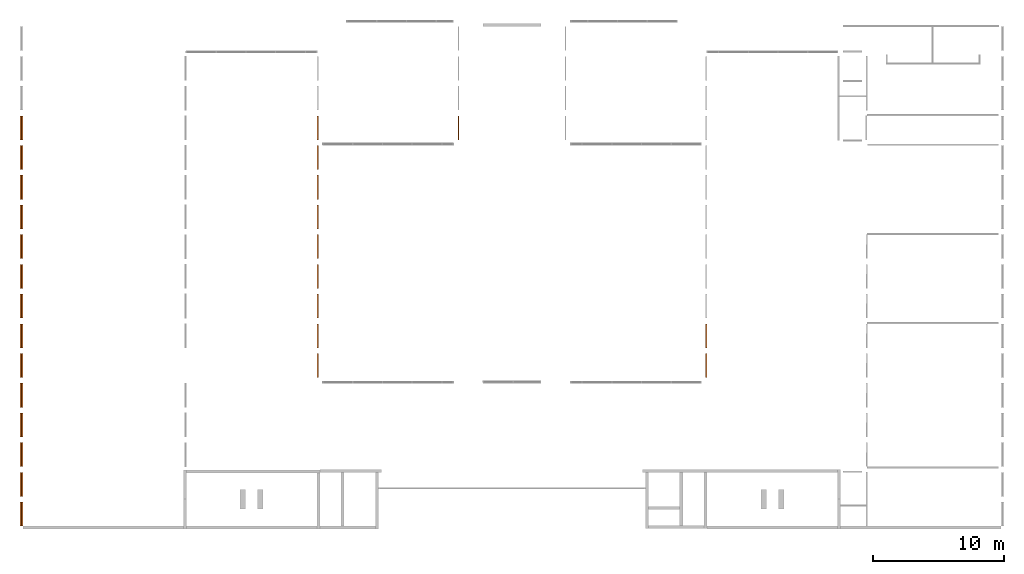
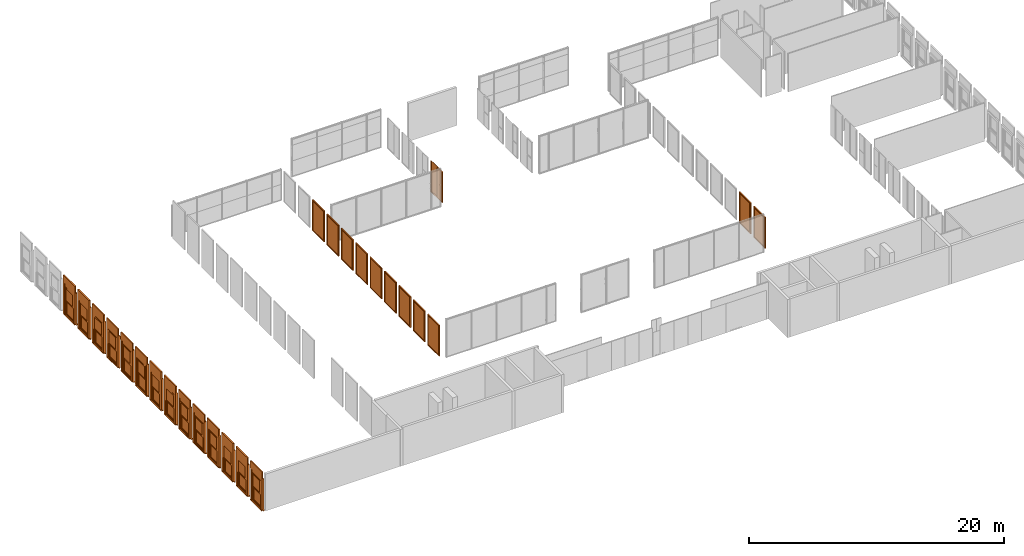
# One storey, part 13 of 15: 26 proxies.
"""IFC2X3 building model written with IfcOpenShell, lengths in millimetres."""

from ifc_helpers import new_model, entity, si_unit, converted_unit, derived_unit, direction, frame, frame_2d, origin, origin_2d_with_axis, place, context, subcontext, project, spatial, polyline, rectangle, outline, extrude, source, transform, mapped, material, material_list, type_object, type_shapes, element, save


model = new_model("IFC2X3")

# Units and contexts
model_context = context("Model", 3, precision=0.01, world=origin(), true_north=direction((6.12303176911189e-17, 1.0)))
body_context = subcontext(model_context, "Body", "Model", "MODEL_VIEW")
ifc_project = project(units=[si_unit("LENGTHUNIT", "METRE", prefix="MILLI"), si_unit("AREAUNIT", "SQUARE_METRE"), si_unit("VOLUMEUNIT", "CUBIC_METRE"), converted_unit("PLANEANGLEUNIT", "DEGREE", entity("IfcRatioMeasure", 0.0174532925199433), si_unit("PLANEANGLEUNIT", "RADIAN"), dimensions=[0, 0, 0, 0, 0, 0, 0]), si_unit("MASSUNIT", "GRAM", prefix="KILO"), derived_unit("MASSDENSITYUNIT", [(si_unit("MASSUNIT", "GRAM", prefix="KILO"), 1), (si_unit("LENGTHUNIT", "METRE"), -3)]), derived_unit("MOMENTOFINERTIAUNIT", [(si_unit("LENGTHUNIT", "METRE"), 4)]), si_unit("TIMEUNIT", "SECOND"), si_unit("FREQUENCYUNIT", "HERTZ"), si_unit("THERMODYNAMICTEMPERATUREUNIT", "DEGREE_CELSIUS"), derived_unit("THERMALTRANSMITTANCEUNIT", [(si_unit("MASSUNIT", "GRAM", prefix="KILO"), 1), (si_unit("THERMODYNAMICTEMPERATUREUNIT", "KELVIN"), -1), (si_unit("TIMEUNIT", "SECOND"), -3)]), derived_unit("VOLUMETRICFLOWRATEUNIT", [(si_unit("LENGTHUNIT", "METRE"), 3), (si_unit("TIMEUNIT", "SECOND"), -1)]), si_unit("ELECTRICCURRENTUNIT", "AMPERE"), si_unit("ELECTRICVOLTAGEUNIT", "VOLT"), si_unit("POWERUNIT", "WATT"), si_unit("FORCEUNIT", "NEWTON", prefix="KILO"), si_unit("ILLUMINANCEUNIT", "LUX"), si_unit("LUMINOUSFLUXUNIT", "LUMEN"), si_unit("LUMINOUSINTENSITYUNIT", "CANDELA"), derived_unit("USERDEFINED", [(si_unit("MASSUNIT", "GRAM", prefix="KILO"), -1), (si_unit("LENGTHUNIT", "METRE"), -2), (si_unit("TIMEUNIT", "SECOND"), 3), (si_unit("LUMINOUSFLUXUNIT", "LUMEN"), 1)]), derived_unit("LINEARVELOCITYUNIT", [(si_unit("LENGTHUNIT", "METRE"), 1), (si_unit("TIMEUNIT", "SECOND"), -1)]), si_unit("PRESSUREUNIT", "PASCAL"), derived_unit("USERDEFINED", [(si_unit("LENGTHUNIT", "METRE"), -2), (si_unit("MASSUNIT", "GRAM", prefix="KILO"), 1), (si_unit("TIMEUNIT", "SECOND"), -2)]), derived_unit("LINEARFORCEUNIT", [(si_unit("MASSUNIT", "GRAM", prefix="KILO"), 1), (si_unit("LENGTHUNIT", "METRE"), 1), (si_unit("TIMEUNIT", "SECOND"), -2), (si_unit("LENGTHUNIT", "METRE"), -1)]), derived_unit("PLANARFORCEUNIT", [(si_unit("MASSUNIT", "GRAM", prefix="KILO"), 1), (si_unit("LENGTHUNIT", "METRE"), 1), (si_unit("TIMEUNIT", "SECOND"), -2), (si_unit("LENGTHUNIT", "METRE"), -2)])], contexts=[model_context])

# Site, building, storey
site_placement = place(None, frame((10627.5135316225, 21939.0796949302, 0.0)))
site = spatial("IfcSite", under=ifc_project, at=site_placement, Name="Default", CompositionType="ELEMENT")
building_placement = place(site_placement, origin())
building = spatial("IfcBuilding", under=site, at=building_placement, CompositionType="ELEMENT")
storey_placement = place(building_placement, origin())
storey = spatial("IfcBuildingStorey", under=building, at=storey_placement, Name="RDC", CompositionType="ELEMENT", Elevation=0.0)

# Proxies
ifc_material_1 = material(Name="PVC, Flexible")
ifc_material_2 = material(Name="Glass")
ifc_material_list_1 = material_list([ifc_material_1, ifc_material_2])
building_element_proxy_type_1 = type_object("IfcBuildingElementProxyType", Name="FENETRE.dwg:Fenetre ext 296+70", PredefinedType="NOTDEFINED", material=ifc_material_1)
shared_shape_1 = source(origin(), body_context, "Body", "SweptSolid", [
    extrude(rectangle(XDim=1829.99999999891, YDim=112.500043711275, at=origin_2d_with_axis()), frame((-10.4189092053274, 56.2500218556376, 2960.0), z_axis=(0.0, 0.0, 1.0), x_axis=(-1.0, 0.0, 0.0)), (0.0, 0.0, 1.0), 700.0),
    extrude(outline(polyline([(-68.5678005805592, -14.3879872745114), (-72.4883397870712, -33.9999574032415), (-67.5853472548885, -34.9800922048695), (-63.9024543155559, -16.5569155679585), (44.3087537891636, -16.5569155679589), (54.1101018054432, 32.4730097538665), (40.6268723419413, 35.1683804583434), (40.1368049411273, 32.7168841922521), (51.168538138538, 30.5115808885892), (42.1928709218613, -14.3879872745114), (-68.5678005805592, -14.3879872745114)])), frame((-925.418909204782, 66.917049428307, -47.5499763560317), z_axis=(-1.0, 0.0, 0.0), x_axis=(0.0, 0.980598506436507, -0.196026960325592)), (0.0, 0.0, -1.0), 1829.99999999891),
    extrude(outline(polyline([(-64.667066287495, -56.2500218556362), (66.1666874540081, -56.2500218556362), (66.1666874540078, 56.2500218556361), (-67.6663086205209, 56.2500218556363), (-64.667066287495, -56.2500218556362)])), frame((-925.418909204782, -56.2500218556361, -63.833312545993), z_axis=(1.0, 0.0, 0.0), x_axis=(0.0, 0.0, -1.0)), (0.0, 0.0, 1.0), 1829.99999999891),
    extrude(outline(polyline([(-55.5555555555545, 97.0007159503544), (-55.5555555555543, -5.85738417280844), (-55.5555555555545, -95.357341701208), (-45.5555555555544, -95.3573417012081), (-45.5555555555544, -105.357341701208), (174.444444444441, -105.357341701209), (174.444444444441, 106.642659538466), (-45.5555555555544, 106.642659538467), (-45.5555555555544, 97.0007159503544), (-55.5555555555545, 97.0007159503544)])), frame((849.025535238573, 5.85738417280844, 0.0), z_axis=(0.0, 0.0, -1.0), x_axis=(-1.0, 0.0, 0.0)), (0.0, 0.0, -1.0), 2960.0),
    extrude(rectangle(XDim=199.499957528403, YDim=1369.99999999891, at=origin_2d_with_axis()), frame((-10.4189092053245, 0.250021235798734, 2730.0), z_axis=(0.0, 0.0, 1.0), x_axis=(0.0, 1.0, 0.0)), (0.0, 0.0, 1.0), 230.000000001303),
    extrude(outline(polyline([(-97.0007159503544, -55.5555555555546), (5.85738417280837, -55.5555555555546), (95.357341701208, -55.5555555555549), (95.357341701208, -45.5555555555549), (105.357341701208, -45.5555555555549), (105.357341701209, 174.44444444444), (-106.642659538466, 174.444444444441), (-106.642659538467, -45.5555555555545), (-97.0007159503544, -45.5555555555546), (-97.0007159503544, -55.5555555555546)])), frame((-869.863353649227, 5.85738417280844, 0.0), z_axis=(0.0, 0.0, 1.0), x_axis=(0.0, -1.0, 0.0)), (0.0, 0.0, 1.0), 2960.0),
    extrude(rectangle(XDim=1.0, YDim=1079.99999999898, at=origin_2d_with_axis()), frame((-10.4189092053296, -19.5, 130.0), z_axis=(0.0, 0.0, 1.0), x_axis=(0.0, 1.0, 0.0)), (0.0, 0.0, 1.0), 1120.00000000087),
    extrude(rectangle(XDim=1.0, YDim=1079.99999999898, at=frame_2d((-4.21884749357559e-15, 0.0), x_axis=(1.0, 0.0))), frame((-10.4189092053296, -30.5, 130.0), z_axis=(0.0, 0.0, 1.0), x_axis=(0.0, 1.0, 0.0)), (0.0, 0.0, 1.0), 1120.00000000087),
    extrude(rectangle(XDim=1.0, YDim=1079.99999999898, at=frame_2d((-4.21884749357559e-15, 0.0), x_axis=(1.0, 0.0))), frame((-10.4189092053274, 69.5, 1465.0), z_axis=(0.0, 0.0, 1.0), x_axis=(0.0, 1.0, 0.0)), (0.0, 0.0, 1.0), 1120.0),
    extrude(rectangle(XDim=0.999999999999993, YDim=1079.99999999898, at=frame_2d((-8.46545056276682e-15, 0.0), x_axis=(1.0, 0.0))), frame((-10.4189092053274, 80.5, 1465.0), z_axis=(0.0, 0.0, 1.0), x_axis=(0.0, 1.0, 0.0)), (0.0, 0.0, 1.0), 1120.00000000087),
    extrude(outline(polyline([(-685.0, -1365.0), (0.0, -1365.0), (685.0, -1365.0), (685.0, 1365.0), (0.0, 1365.0), (-685.0, 1365.0), (-685.0, -1365.0)]), holes=[polyline([(-640.0, -1320.0), (-640.0, -45.0), (0.0, -45.0), (640.0, -45.0), (640.0, -1320.0), (0.0, -1320.0), (-640.0, -1320.0)]), polyline([(-640.0, 40.0), (-640.0, 1315.0), (0.0, 1315.0), (640.0, 1315.0), (640.0, 40.0), (0.0, 40.0), (-640.0, 40.0)])]), frame((-10.4189092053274, 0.0, 1365.0), z_axis=(0.0, 1.0, 0.0), x_axis=(1.0, 0.0, 0.0)), (0.0, 0.0, 1.0), 50.0),
    extrude(outline(polyline([(-655.0, -667.500000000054), (655.0, -667.500000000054), (655.0, 667.500000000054), (-655.0, 667.500000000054), (-655.0, -667.500000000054)]), holes=[polyline([(-540.0, 552.500000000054), (540.0, 552.500000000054), (540.0, -567.500000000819), (-540.0, -567.500000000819), (-540.0, 552.500000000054)])]), frame((-10.4189092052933, -50.0, 697.500000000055), z_axis=(0.0, 1.0, 0.0), x_axis=(-1.0, 0.0, 0.0)), (0.0, 0.0, 1.0), 50.0),
    extrude(outline(polyline([(-655.0, -667.500000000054), (655.0, -667.500000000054), (655.0, 667.500000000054), (-655.0, 667.500000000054), (-655.0, -667.500000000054)]), holes=[polyline([(-540.0, 552.500000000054), (540.0, 552.500000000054), (540.0, -567.500000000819), (-540.0, -567.500000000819), (-540.0, 552.500000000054)])]), frame((-10.4189092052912, 50.0, 2032.50000000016), z_axis=(0.0, 1.0, 0.0), x_axis=(-1.0, 0.0, 0.0)), (0.0, 0.0, 1.0), 50.0),
])
type_shapes(building_element_proxy_type_1, [shared_shape_1])
proxy_1_placement = place(storey_placement, frame((-10728.9017825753, 8581.33921427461, 0.0), z_axis=(0.0, 0.0, 1.0), x_axis=(0.0, 1.0, 0.0)))
element("IfcBuildingElementProxy", 1, at=proxy_1_placement, inside=storey, type_object=building_element_proxy_type_1, material=ifc_material_list_1, Name="FENETRE.dwg:Fenetre ext 296+70", ObjectType="FENETRE.dwg:Fenetre ext 296+70", context=body_context, shape_type="MappedRepresentation", body=[
    mapped(shared_shape_1, transform((0.0, 0.0, 0.0), scale=1.0)),
])
ifc_material_list_2 = material_list([ifc_material_1, ifc_material_2])
proxy_2_placement = place(storey_placement, frame((-10728.9017825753, 6321.33921427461, 0.0), z_axis=(0.0, 0.0, 1.0), x_axis=(0.0, 1.0, 0.0)))
element("IfcBuildingElementProxy", 2, at=proxy_2_placement, inside=storey, type_object=building_element_proxy_type_1, material=ifc_material_list_2, Name="FENETRE.dwg:Fenetre ext 296+70", ObjectType="FENETRE.dwg:Fenetre ext 296+70", context=body_context, shape_type="MappedRepresentation", body=[
    mapped(shared_shape_1, transform((0.0, 0.0, 0.0), scale=1.0)),
])
ifc_material_list_3 = material_list([ifc_material_1, ifc_material_2])
proxy_3_placement = place(storey_placement, frame((-10728.9017825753, 4061.33921427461, 0.0), z_axis=(0.0, 0.0, 1.0), x_axis=(0.0, 1.0, 0.0)))
element("IfcBuildingElementProxy", 3, at=proxy_3_placement, inside=storey, type_object=building_element_proxy_type_1, material=ifc_material_list_3, Name="FENETRE.dwg:Fenetre ext 296+70", ObjectType="FENETRE.dwg:Fenetre ext 296+70", context=body_context, shape_type="MappedRepresentation", body=[
    mapped(shared_shape_1, transform((0.0, 0.0, 0.0), scale=1.0)),
])
ifc_material_list_4 = material_list([ifc_material_1, ifc_material_2])
proxy_4_placement = place(storey_placement, frame((-10728.9017825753, 1801.33921427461, 0.0), z_axis=(0.0, 0.0, 1.0), x_axis=(0.0, 1.0, 0.0)))
element("IfcBuildingElementProxy", 4, at=proxy_4_placement, inside=storey, type_object=building_element_proxy_type_1, material=ifc_material_list_4, Name="FENETRE.dwg:Fenetre ext 296+70", ObjectType="FENETRE.dwg:Fenetre ext 296+70", context=body_context, shape_type="MappedRepresentation", body=[
    mapped(shared_shape_1, transform((0.0, 0.0, 0.0), scale=1.0)),
])
ifc_material_list_5 = material_list([ifc_material_1, ifc_material_2])
proxy_5_placement = place(storey_placement, frame((-10728.9017825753, -458.660785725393, 0.0), z_axis=(0.0, 0.0, 1.0), x_axis=(0.0, 1.0, 0.0)))
element("IfcBuildingElementProxy", 5, at=proxy_5_placement, inside=storey, type_object=building_element_proxy_type_1, material=ifc_material_list_5, Name="FENETRE.dwg:Fenetre ext 296+70", ObjectType="FENETRE.dwg:Fenetre ext 296+70", context=body_context, shape_type="MappedRepresentation", body=[
    mapped(shared_shape_1, transform((0.0, 0.0, 0.0), scale=1.0)),
])
ifc_material_list_6 = material_list([ifc_material_1, ifc_material_2])
proxy_6_placement = place(storey_placement, frame((-10728.9017825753, -2718.66078572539, 0.0), z_axis=(0.0, 0.0, 1.0), x_axis=(0.0, 1.0, 0.0)))
element("IfcBuildingElementProxy", 6, at=proxy_6_placement, inside=storey, type_object=building_element_proxy_type_1, material=ifc_material_list_6, Name="FENETRE.dwg:Fenetre ext 296+70", ObjectType="FENETRE.dwg:Fenetre ext 296+70", context=body_context, shape_type="MappedRepresentation", body=[
    mapped(shared_shape_1, transform((0.0, 0.0, 0.0), scale=1.0)),
])
ifc_material_list_7 = material_list([ifc_material_1, ifc_material_2])
proxy_7_placement = place(storey_placement, frame((-10728.9017825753, -4978.6607857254, 0.0), z_axis=(0.0, 0.0, 1.0), x_axis=(0.0, 1.0, 0.0)))
element("IfcBuildingElementProxy", 7, at=proxy_7_placement, inside=storey, type_object=building_element_proxy_type_1, material=ifc_material_list_7, Name="FENETRE.dwg:Fenetre ext 296+70", ObjectType="FENETRE.dwg:Fenetre ext 296+70", context=body_context, shape_type="MappedRepresentation", body=[
    mapped(shared_shape_1, transform((0.0, 0.0, 0.0), scale=1.0)),
])
ifc_material_list_8 = material_list([ifc_material_1, ifc_material_2])
proxy_8_placement = place(storey_placement, frame((-10728.9017825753, -7238.6607857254, 0.0), z_axis=(0.0, 0.0, 1.0), x_axis=(0.0, 1.0, 0.0)))
element("IfcBuildingElementProxy", 8, at=proxy_8_placement, inside=storey, type_object=building_element_proxy_type_1, material=ifc_material_list_8, Name="FENETRE.dwg:Fenetre ext 296+70", ObjectType="FENETRE.dwg:Fenetre ext 296+70", context=body_context, shape_type="MappedRepresentation", body=[
    mapped(shared_shape_1, transform((0.0, 0.0, 0.0), scale=1.0)),
])
ifc_material_list_9 = material_list([ifc_material_1, ifc_material_2])
proxy_9_placement = place(storey_placement, frame((-10728.9017825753, -9498.6607857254, 0.0), z_axis=(0.0, 0.0, 1.0), x_axis=(0.0, 1.0, 0.0)))
element("IfcBuildingElementProxy", 9, at=proxy_9_placement, inside=storey, type_object=building_element_proxy_type_1, material=ifc_material_list_9, Name="FENETRE.dwg:Fenetre ext 296+70", ObjectType="FENETRE.dwg:Fenetre ext 296+70", context=body_context, shape_type="MappedRepresentation", body=[
    mapped(shared_shape_1, transform((0.0, 0.0, 0.0), scale=1.0)),
])
ifc_material_list_10 = material_list([ifc_material_1, ifc_material_2])
proxy_10_placement = place(storey_placement, frame((-10728.9017825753, -11758.6607857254, 0.0), z_axis=(0.0, 0.0, 1.0), x_axis=(0.0, 1.0, 0.0)))
element("IfcBuildingElementProxy", 10, at=proxy_10_placement, inside=storey, type_object=building_element_proxy_type_1, material=ifc_material_list_10, Name="FENETRE.dwg:Fenetre ext 296+70", ObjectType="FENETRE.dwg:Fenetre ext 296+70", context=body_context, shape_type="MappedRepresentation", body=[
    mapped(shared_shape_1, transform((0.0, 0.0, 0.0), scale=1.0)),
])
ifc_material_list_11 = material_list([ifc_material_1, ifc_material_2])
proxy_11_placement = place(storey_placement, frame((-10728.9017825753, -14018.6607857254, 0.0), z_axis=(0.0, 0.0, 1.0), x_axis=(0.0, 1.0, 0.0)))
element("IfcBuildingElementProxy", 11, at=proxy_11_placement, inside=storey, type_object=building_element_proxy_type_1, material=ifc_material_list_11, Name="FENETRE.dwg:Fenetre ext 296+70", ObjectType="FENETRE.dwg:Fenetre ext 296+70", context=body_context, shape_type="MappedRepresentation", body=[
    mapped(shared_shape_1, transform((0.0, 0.0, 0.0), scale=1.0)),
])
ifc_material_list_12 = material_list([ifc_material_1, ifc_material_2])
proxy_12_placement = place(storey_placement, frame((-10728.9017825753, -16278.6607857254, 0.0), z_axis=(0.0, 0.0, 1.0), x_axis=(0.0, 1.0, 0.0)))
element("IfcBuildingElementProxy", 12, at=proxy_12_placement, inside=storey, type_object=building_element_proxy_type_1, material=ifc_material_list_12, Name="FENETRE.dwg:Fenetre ext 296+70", ObjectType="FENETRE.dwg:Fenetre ext 296+70", context=body_context, shape_type="MappedRepresentation", body=[
    mapped(shared_shape_1, transform((0.0, 0.0, 0.0), scale=1.0)),
])
ifc_material_list_13 = material_list([ifc_material_1, ifc_material_2])
proxy_13_placement = place(storey_placement, frame((-10728.9017825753, -18538.6607857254, 0.0), z_axis=(0.0, 0.0, 1.0), x_axis=(0.0, 1.0, 0.0)))
element("IfcBuildingElementProxy", 13, at=proxy_13_placement, inside=storey, type_object=building_element_proxy_type_1, material=ifc_material_list_13, Name="FENETRE.dwg:Fenetre ext 296+70", ObjectType="FENETRE.dwg:Fenetre ext 296+70", context=body_context, shape_type="MappedRepresentation", body=[
    mapped(shared_shape_1, transform((0.0, 0.0, 0.0), scale=1.0)),
])
ifc_material_list_14 = material_list([ifc_material_1, ifc_material_2])
proxy_14_placement = place(storey_placement, frame((-10728.9017825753, -20798.6607857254, 0.0), z_axis=(0.0, 0.0, 1.0), x_axis=(0.0, 1.0, 0.0)))
element("IfcBuildingElementProxy", 14, at=proxy_14_placement, inside=storey, type_object=building_element_proxy_type_1, material=ifc_material_list_14, Name="FENETRE.dwg:Fenetre ext 296+70", ObjectType="FENETRE.dwg:Fenetre ext 296+70", context=body_context, shape_type="MappedRepresentation", body=[
    mapped(shared_shape_1, transform((0.0, 0.0, 0.0), scale=1.0)),
])
ifc_material_3 = material(Name="Softwood, Finish Black")
ifc_material_list_15 = material_list([ifc_material_2, ifc_material_3])
building_element_proxy_type_2 = type_object("IfcBuildingElementProxyType", Name="Cloisin vitre bois vitrage P-F 3-4H 498x296:Cloisin vitre bois vitrage P-F 3-4H 498x296", PredefinedType="NOTDEFINED", material=ifc_material_2)
shared_shape_2 = source(origin(), body_context, "Body", "SweptSolid", [
    extrude(rectangle(XDim=4.96346169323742, YDim=1750.0, at=frame_2d((-4.21884749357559e-15, 1.13686837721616e-13), x_axis=(1.0, 0.0))), frame((0.0, -47.4817308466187, 40.0), z_axis=(0.0, 0.0, 1.0), x_axis=(0.0, 1.0, 0.0)), (0.0, 0.0, 1.0), 2880.0),
    extrude(rectangle(XDim=5.0, YDim=1750.0, at=frame_2d((-1.99840144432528e-15, 1.13686837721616e-13), x_axis=(1.0, 0.0))), frame((0.0, -32.5, 40.0), z_axis=(0.0, 0.0, 1.0), x_axis=(0.0, 1.0, 0.0)), (0.0, 0.0, 1.0), 2880.0),
    extrude(rectangle(XDim=5.0, YDim=1750.0, at=frame_2d((-1.99840144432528e-15, 1.13686837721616e-13), x_axis=(1.0, 0.0))), frame((0.0, -32.5, 40.0), z_axis=(0.0, 0.0, 1.0), x_axis=(0.0, 1.0, 0.0)), (0.0, 0.0, 1.0), 2880.0),
    extrude(outline(polyline([(-1440.0, -875.0), (1440.0, -875.0), (1440.0, 875.0), (-1440.0, 875.0), (-1440.0, -875.0)]), holes=[polyline([(1400.0, 835.0), (1400.0, -783.916998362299), (-1400.0, -783.916998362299), (-1400.0, 835.0), (1400.0, 835.0)])]), frame((0.0, -100.0, 1480.0), z_axis=(0.0, 1.0, 0.0), x_axis=(0.0, 0.0, -1.0)), (0.0, 0.0, 1.0), 50.0365383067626),
    extrude(outline(polyline([(-1480.0, -915.0), (1480.0, -915.0), (1480.0, 915.0), (-1480.0, 915.0), (-1480.0, -915.0)]), holes=[polyline([(-1440.0, -875.0), (-1440.0, 875.0), (1440.0, 875.0), (1440.0, -875.0), (-1440.0, -875.0)])]), frame((0.0, -100.0, 1480.0), z_axis=(0.0, 1.0, 0.0), x_axis=(0.0, 0.0, -1.0)), (0.0, 0.0, 1.0), 70.0),
    extrude(outline(polyline([(-1480.0, -915.0), (1480.0, -915.0), (1480.0, 0.0), (1480.0, 915.0), (-1480.0, 915.0), (-1480.0, 0.0), (-1480.0, -915.0)]), holes=[polyline([(1400.0, 0.0), (1400.0, -835.0), (-1400.0, -835.0), (-1400.0, 0.0), (-1400.0, 835.0), (1400.0, 835.0), (1400.0, 0.0)])]), frame((0.0, -30.0, 1480.0), z_axis=(0.0, 1.0, 0.0), x_axis=(0.0, 0.0, 1.0)), (0.0, 0.0, 1.0), 30.0),
])
type_shapes(building_element_proxy_type_2, [shared_shape_2])
proxy_15_placement = place(storey_placement, frame((41406.8614683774, -7249.07969493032, 0.0), z_axis=(0.0, 0.0, 1.0), x_axis=(0.0, -1.0, 0.0)))
element("IfcBuildingElementProxy", 15, at=proxy_15_placement, inside=storey, type_object=building_element_proxy_type_2, material=ifc_material_list_15, Name="Cloisin vitre bois vitrage P-F 3-4H 498x296:Cloisin vitre bois vitrage P-F 3-4H 498x296", ObjectType="Cloisin vitre bois vitrage P-F 3-4H 498x296:Cloisin vitre bois vitrage P-F 3-4H 498x296", context=body_context, shape_type="MappedRepresentation", body=[
    mapped(shared_shape_2, transform((0.0, 0.0, 0.0), scale=1.0)),
])
ifc_material_list_16 = material_list([ifc_material_2, ifc_material_3])
proxy_16_placement = place(storey_placement, frame((41406.8614683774, -9509.07969493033, 0.0), z_axis=(0.0, 0.0, 1.0), x_axis=(0.0, -1.0, 0.0)))
element("IfcBuildingElementProxy", 16, at=proxy_16_placement, inside=storey, type_object=building_element_proxy_type_2, material=ifc_material_list_16, Name="Cloisin vitre bois vitrage P-F 3-4H 498x296:Cloisin vitre bois vitrage P-F 3-4H 498x296", ObjectType="Cloisin vitre bois vitrage P-F 3-4H 498x296:Cloisin vitre bois vitrage P-F 3-4H 498x296", context=body_context, shape_type="MappedRepresentation", body=[
    mapped(shared_shape_2, transform((0.0, 0.0, 0.0), scale=1.0)),
])
ifc_material_list_17 = material_list([ifc_material_2, ifc_material_3])
building_element_proxy_type_3 = type_object("IfcBuildingElementProxyType", Name="Cloisin vitre bois vitrage P-F 3-4H 498x296:Cloisin vitre bois vitrage P-F 3-4H 498x296", PredefinedType="NOTDEFINED", material=ifc_material_2)
shared_shape_3 = source(origin(), body_context, "Body", "SweptSolid", [
    extrude(rectangle(XDim=1750.0, YDim=4.96346169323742, at=frame_2d((0.0, -4.21884749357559e-15), x_axis=(1.0, 0.0))), frame((0.0, 47.4817308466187, 40.0), z_axis=(0.0, 0.0, 1.0), x_axis=(-1.0, 0.0, 0.0)), (0.0, 0.0, 1.0), 2880.0),
    extrude(rectangle(XDim=1750.0, YDim=5.0, at=frame_2d((0.0, 1.99840144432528e-15), x_axis=(1.0, 0.0))), frame((0.0, 32.5, 40.0), z_axis=(0.0, 0.0, 1.0), x_axis=(-1.0, 0.0, 0.0)), (0.0, 0.0, 1.0), 2880.0),
    extrude(rectangle(XDim=1750.0, YDim=5.0, at=frame_2d((0.0, 1.99840144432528e-15), x_axis=(1.0, 0.0))), frame((0.0, 32.5, 40.0), z_axis=(0.0, 0.0, 1.0), x_axis=(-1.0, 0.0, 0.0)), (0.0, 0.0, 1.0), 2880.0),
    extrude(outline(polyline([(-1440.0, -875.0), (1440.0, -875.0), (1440.0, 875.0), (-1440.0, 875.0), (-1440.0, -875.0)]), holes=[polyline([(1400.0, 835.0), (1400.0, -783.916998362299), (-1400.0, -783.916998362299), (-1400.0, 835.0), (1400.0, 835.0)])]), frame((0.0, 49.9634616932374, 1480.0), z_axis=(0.0, 1.0, 0.0), x_axis=(0.0, 0.0, -1.0)), (0.0, 0.0, 1.0), 50.0365383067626),
    extrude(outline(polyline([(-1480.0, -915.0), (1480.0, -915.0), (1480.0, 915.0), (-1480.0, 915.0), (-1480.0, -915.0)]), holes=[polyline([(-1440.0, -875.0), (-1440.0, 875.0), (1440.0, 875.0), (1440.0, -875.0), (-1440.0, -875.0)])]), frame((0.0, 30.0, 1480.0), z_axis=(0.0, 1.0, 0.0), x_axis=(0.0, 0.0, -1.0)), (0.0, 0.0, 1.0), 70.0),
    extrude(outline(polyline([(-1480.0, -915.0), (1480.0, -915.0), (1480.0, 0.0), (1480.0, 915.0), (-1480.0, 915.0), (-1480.0, 0.0), (-1480.0, -915.0)]), holes=[polyline([(1400.0, 0.0), (1400.0, -835.0), (-1400.0, -835.0), (-1400.0, 0.0), (-1400.0, 835.0), (1400.0, 835.0), (1400.0, 0.0)])]), frame((0.0, 0.0, 1480.0), z_axis=(0.0, 1.0, 0.0), x_axis=(0.0, 0.0, 1.0)), (0.0, 0.0, 1.0), 30.0),
])
type_shapes(building_element_proxy_type_3, [shared_shape_3])
proxy_17_placement = place(storey_placement, frame((11748.1114683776, 8570.92030506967, 0.0), z_axis=(0.0, 0.0, 1.0), x_axis=(0.0, -1.0, 0.0)))
element("IfcBuildingElementProxy", 17, at=proxy_17_placement, inside=storey, type_object=building_element_proxy_type_3, material=ifc_material_list_17, Name="Cloisin vitre bois vitrage P-F 3-4H 498x296:Cloisin vitre bois vitrage P-F 3-4H 498x296", ObjectType="Cloisin vitre bois vitrage P-F 3-4H 498x296:Cloisin vitre bois vitrage P-F 3-4H 498x296", context=body_context, shape_type="MappedRepresentation", body=[
    mapped(shared_shape_3, transform((0.0, 0.0, 0.0), scale=1.0)),
])
ifc_material_list_18 = material_list([ifc_material_2, ifc_material_3])
proxy_18_placement = place(storey_placement, frame((11748.1114683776, 6310.92030506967, 0.0), z_axis=(0.0, 0.0, 1.0), x_axis=(0.0, -1.0, 0.0)))
element("IfcBuildingElementProxy", 18, at=proxy_18_placement, inside=storey, type_object=building_element_proxy_type_3, material=ifc_material_list_18, Name="Cloisin vitre bois vitrage P-F 3-4H 498x296:Cloisin vitre bois vitrage P-F 3-4H 498x296", ObjectType="Cloisin vitre bois vitrage P-F 3-4H 498x296:Cloisin vitre bois vitrage P-F 3-4H 498x296", context=body_context, shape_type="MappedRepresentation", body=[
    mapped(shared_shape_3, transform((0.0, 0.0, 0.0), scale=1.0)),
])
ifc_material_list_19 = material_list([ifc_material_2, ifc_material_3])
proxy_19_placement = place(storey_placement, frame((11748.1114683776, 4050.92030506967, 0.0), z_axis=(0.0, 0.0, 1.0), x_axis=(0.0, -1.0, 0.0)))
element("IfcBuildingElementProxy", 19, at=proxy_19_placement, inside=storey, type_object=building_element_proxy_type_3, material=ifc_material_list_19, Name="Cloisin vitre bois vitrage P-F 3-4H 498x296:Cloisin vitre bois vitrage P-F 3-4H 498x296", ObjectType="Cloisin vitre bois vitrage P-F 3-4H 498x296:Cloisin vitre bois vitrage P-F 3-4H 498x296", context=body_context, shape_type="MappedRepresentation", body=[
    mapped(shared_shape_3, transform((0.0, 0.0, 0.0), scale=1.0)),
])
ifc_material_list_20 = material_list([ifc_material_2, ifc_material_3])
proxy_20_placement = place(storey_placement, frame((11748.1114683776, 1790.92030506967, 0.0), z_axis=(0.0, 0.0, 1.0), x_axis=(0.0, -1.0, 0.0)))
element("IfcBuildingElementProxy", 20, at=proxy_20_placement, inside=storey, type_object=building_element_proxy_type_3, material=ifc_material_list_20, Name="Cloisin vitre bois vitrage P-F 3-4H 498x296:Cloisin vitre bois vitrage P-F 3-4H 498x296", ObjectType="Cloisin vitre bois vitrage P-F 3-4H 498x296:Cloisin vitre bois vitrage P-F 3-4H 498x296", context=body_context, shape_type="MappedRepresentation", body=[
    mapped(shared_shape_3, transform((0.0, 0.0, 0.0), scale=1.0)),
])
ifc_material_list_21 = material_list([ifc_material_2, ifc_material_3])
proxy_21_placement = place(storey_placement, frame((11748.1114683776, -469.079694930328, 0.0), z_axis=(0.0, 0.0, 1.0), x_axis=(0.0, -1.0, 0.0)))
element("IfcBuildingElementProxy", 21, at=proxy_21_placement, inside=storey, type_object=building_element_proxy_type_3, material=ifc_material_list_21, Name="Cloisin vitre bois vitrage P-F 3-4H 498x296:Cloisin vitre bois vitrage P-F 3-4H 498x296", ObjectType="Cloisin vitre bois vitrage P-F 3-4H 498x296:Cloisin vitre bois vitrage P-F 3-4H 498x296", context=body_context, shape_type="MappedRepresentation", body=[
    mapped(shared_shape_3, transform((0.0, 0.0, 0.0), scale=1.0)),
])
ifc_material_list_22 = material_list([ifc_material_2, ifc_material_3])
proxy_22_placement = place(storey_placement, frame((11748.1114683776, -2729.07969493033, 0.0), z_axis=(0.0, 0.0, 1.0), x_axis=(0.0, -1.0, 0.0)))
element("IfcBuildingElementProxy", 22, at=proxy_22_placement, inside=storey, type_object=building_element_proxy_type_3, material=ifc_material_list_22, Name="Cloisin vitre bois vitrage P-F 3-4H 498x296:Cloisin vitre bois vitrage P-F 3-4H 498x296", ObjectType="Cloisin vitre bois vitrage P-F 3-4H 498x296:Cloisin vitre bois vitrage P-F 3-4H 498x296", context=body_context, shape_type="MappedRepresentation", body=[
    mapped(shared_shape_3, transform((0.0, 0.0, 0.0), scale=1.0)),
])
ifc_material_list_23 = material_list([ifc_material_2, ifc_material_3])
proxy_23_placement = place(storey_placement, frame((11748.1114683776, -4989.07969493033, 0.0), z_axis=(0.0, 0.0, 1.0), x_axis=(0.0, -1.0, 0.0)))
element("IfcBuildingElementProxy", 23, at=proxy_23_placement, inside=storey, type_object=building_element_proxy_type_3, material=ifc_material_list_23, Name="Cloisin vitre bois vitrage P-F 3-4H 498x296:Cloisin vitre bois vitrage P-F 3-4H 498x296", ObjectType="Cloisin vitre bois vitrage P-F 3-4H 498x296:Cloisin vitre bois vitrage P-F 3-4H 498x296", context=body_context, shape_type="MappedRepresentation", body=[
    mapped(shared_shape_3, transform((0.0, 0.0, 0.0), scale=1.0)),
])
ifc_material_list_24 = material_list([ifc_material_2, ifc_material_3])
proxy_24_placement = place(storey_placement, frame((11748.1114683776, -7249.07969493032, 0.0), z_axis=(0.0, 0.0, 1.0), x_axis=(0.0, -1.0, 0.0)))
element("IfcBuildingElementProxy", 24, at=proxy_24_placement, inside=storey, type_object=building_element_proxy_type_3, material=ifc_material_list_24, Name="Cloisin vitre bois vitrage P-F 3-4H 498x296:Cloisin vitre bois vitrage P-F 3-4H 498x296", ObjectType="Cloisin vitre bois vitrage P-F 3-4H 498x296:Cloisin vitre bois vitrage P-F 3-4H 498x296", context=body_context, shape_type="MappedRepresentation", body=[
    mapped(shared_shape_3, transform((0.0, 0.0, 0.0), scale=1.0)),
])
ifc_material_list_25 = material_list([ifc_material_2, ifc_material_3])
proxy_25_placement = place(storey_placement, frame((11748.1114683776, -9509.07969493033, 0.0), z_axis=(0.0, 0.0, 1.0), x_axis=(0.0, -1.0, 0.0)))
element("IfcBuildingElementProxy", 25, at=proxy_25_placement, inside=storey, type_object=building_element_proxy_type_3, material=ifc_material_list_25, Name="Cloisin vitre bois vitrage P-F 3-4H 498x296:Cloisin vitre bois vitrage P-F 3-4H 498x296", ObjectType="Cloisin vitre bois vitrage P-F 3-4H 498x296:Cloisin vitre bois vitrage P-F 3-4H 498x296", context=body_context, shape_type="MappedRepresentation", body=[
    mapped(shared_shape_3, transform((0.0, 0.0, 0.0), scale=1.0)),
])
ifc_material_4 = material(Name="Plywood, Sheathing")
ifc_material_list_26 = material_list([ifc_material_4, ifc_material_2])
building_element_proxy_type_4 = type_object("IfcBuildingElementProxyType", Name="Porte noire:Porte noire", PredefinedType="NOTDEFINED", material=ifc_material_4)
shared_shape_4 = source(origin(), body_context, "Body", "SweptSolid", [
    extrude(rectangle(XDim=23.0000000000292, YDim=100.0, at=frame_2d((-1.35891298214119e-13, 0.0), x_axis=(1.0, 0.0))), frame((-950.918997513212, 50.0, 8.73189890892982), z_axis=(0.0, 0.0, 1.0), x_axis=(-1.0, 0.0, 0.0)), (0.0, 0.0, 1.0), 2933.34951039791),
    extrude(rectangle(XDim=1038.0, YDim=19.0, at=frame_2d((0.0, 7.99360577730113e-15), x_axis=(1.0, 0.0))), frame((-420.418997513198, 87.5, 43.7318989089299), z_axis=(0.0, 0.0, 1.0), x_axis=(-1.0, 0.0, 0.0)), (0.0, 0.0, 1.0), 2898.5),
    extrude(rectangle(XDim=1775.0, YDim=100.0, at=origin_2d_with_axis()), frame((-51.9189975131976, 50.0, 8.73189890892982), z_axis=(0.0, 0.0, 1.0), x_axis=(-1.0, 0.0, 0.0)), (0.0, 0.0, 1.0), 35.0000000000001),
    extrude(rectangle(XDim=35.0000000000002, YDim=100.0, at=origin_2d_with_axis()), frame((853.081002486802, 50.0, 8.73189890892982), z_axis=(0.0, 0.0, 1.0), x_axis=(-1.0, 0.0, 0.0)), (0.0, 0.0, 1.0), 2898.5),
    extrude(rectangle(XDim=740.0, YDim=100.0, at=origin_2d_with_axis()), frame((500.581002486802, 50.0, 2907.23189890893), z_axis=(0.0, 0.0, 1.0), x_axis=(-1.0, 0.0, 0.0)), (0.0, 0.0, 1.0), 35.0000000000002),
    extrude(rectangle(XDim=31.9999999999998, YDim=100.0, at=origin_2d_with_axis()), frame((114.581002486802, 50.0, 43.7318989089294), z_axis=(0.0, 0.0, 1.0), x_axis=(-1.0, 0.0, 0.0)), (0.0, 0.0, 1.0), 2898.5),
    extrude(rectangle(XDim=705.0, YDim=100.0, at=origin_2d_with_axis()), frame((483.081002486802, 50.0, 1343.73189890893), z_axis=(0.0, 0.0, 1.0), x_axis=(-1.0, 0.0, 0.0)), (0.0, 0.0, 1.0), 55.0),
    extrude(outline(polyline([(-352.5, -650.0), (352.5, -650.0), (352.5, 650.0), (-352.5, 650.0), (-352.5, -650.0)]), holes=[polyline([(342.5, 640.0), (342.5, -640.0), (-342.5, -640.0), (-342.5, 640.0), (342.5, 640.0)])]), frame((483.081002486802, 10.0, 693.73189890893), z_axis=(0.0, 1.0, 0.0), x_axis=(1.0, 0.0, 0.0)), (0.0, 0.0, 1.0), 70.0),
    extrude(outline(polyline([(-754.25, -352.5), (754.25, -352.5), (754.25, 352.5), (-754.25, 352.5), (-754.25, -352.5)]), holes=[polyline([(744.25, 342.5), (744.25, -342.5), (-744.25, -342.5), (-744.25, 342.5), (744.25, 342.5)])]), frame((483.081002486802, 10.0, 2152.98189890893), z_axis=(0.0, 1.0, 0.0), x_axis=(0.0, 0.0, 1.0)), (0.0, 0.0, 1.0), 70.0),
    extrude(outline(polyline([(-640.0, -342.5), (640.0, -342.5), (640.0, 342.5), (-640.0, 342.5), (-640.0, -342.5)]), holes=[polyline([(630.0, 332.5), (630.0, -332.5), (-630.0, -332.5), (-630.0, 332.5), (630.0, 332.5)])]), frame((483.081002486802, 77.0, 693.731898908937), z_axis=(0.0, 1.0, 0.0), x_axis=(0.0, 0.0, 1.0)), (0.0, 0.0, 1.0), 3.99999999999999),
    extrude(outline(polyline([(-744.25, -342.5), (744.25, -342.5), (744.25, 342.5), (-744.25, 342.5), (-744.25, -342.5)]), holes=[polyline([(734.25, 332.5), (734.25, -332.5), (-734.25, -332.5), (-734.25, 332.5), (734.25, 332.5)])]), frame((483.081002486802, 77.0, 2152.98189890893), z_axis=(0.0, 1.0, 0.0), x_axis=(0.0, 0.0, 1.0)), (0.0, 0.0, 1.0), 3.99999999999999),
    extrude(outline(polyline([(-640.0, -342.5), (640.0, -342.5), (640.0, 342.5), (-640.0, 342.5), (-640.0, -342.5)]), holes=[polyline([(630.0, 332.5), (630.0, -332.5), (-630.0, -332.5), (-630.0, 332.5), (630.0, 332.5)])]), frame((483.081002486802, 10.0, 693.782575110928), z_axis=(0.0, 1.0, 0.0), x_axis=(0.0, 0.0, 1.0)), (0.0, 0.0, 1.0), 5.0),
    extrude(outline(polyline([(-744.25, -342.5), (744.25, -342.5), (744.25, 342.5), (-744.25, 342.5), (-744.25, -342.5)]), holes=[polyline([(734.25, 332.5), (734.25, -332.5), (-734.25, -332.5), (-734.25, 332.5), (734.25, 332.5)])]), frame((483.081002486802, 10.0, 2153.03257511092), z_axis=(0.0, 1.0, 0.0), x_axis=(0.0, 0.0, 1.0)), (0.0, 0.0, 1.0), 5.0),
    extrude(rectangle(XDim=665.0, YDim=2.0, at=frame_2d((0.0, 8.43769498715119e-15), x_axis=(1.0, 0.0))), frame((483.081002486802, 79.0, 1418.73189890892), z_axis=(0.0, 0.0, 1.0), x_axis=(-1.0, 0.0, 0.0)), (0.0, 0.0, 1.0), 1468.50000000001),
    extrude(rectangle(XDim=665.0, YDim=2.0, at=frame_2d((0.0, 8.43769498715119e-15), x_axis=(1.0, 0.0))), frame((483.081002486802, 79.0, 63.7318989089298), z_axis=(0.0, 0.0, 1.0), x_axis=(-1.0, 0.0, 0.0)), (0.0, 0.0, 1.0), 1260.0),
    extrude(rectangle(XDim=665.0, YDim=2.0, at=frame_2d((0.0, 1.0547118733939e-15), x_axis=(1.0, 0.0))), frame((483.081002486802, 13.0, 1418.78257511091), z_axis=(0.0, 0.0, 1.0), x_axis=(-1.0, 0.0, 0.0)), (0.0, 0.0, 1.0), 1468.50000000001),
    extrude(rectangle(XDim=665.0, YDim=2.0, at=frame_2d((0.0, 1.0547118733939e-15), x_axis=(1.0, 0.0))), frame((483.081002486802, 13.0, 63.7825751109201), z_axis=(0.0, 0.0, 1.0), x_axis=(-1.0, 0.0, 0.0)), (0.0, 0.0, 1.0), 1260.0),
])
type_shapes(building_element_proxy_type_4, [shared_shape_4])
proxy_26_placement = place(storey_placement, frame((22457.4864683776, 8525.50130755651, 0.0), z_axis=(0.0, 0.0, 1.0), x_axis=(0.0, -1.0, 0.0)))
element("IfcBuildingElementProxy", 26, at=proxy_26_placement, inside=storey, type_object=building_element_proxy_type_4, material=ifc_material_list_26, Name="Porte noire:Porte noire", ObjectType="Porte noire:Porte noire", context=body_context, shape_type="MappedRepresentation", body=[
    mapped(shared_shape_4, transform((0.0, 0.0, 0.0), scale=1.0)),
])

save(model, "model.ifc")
